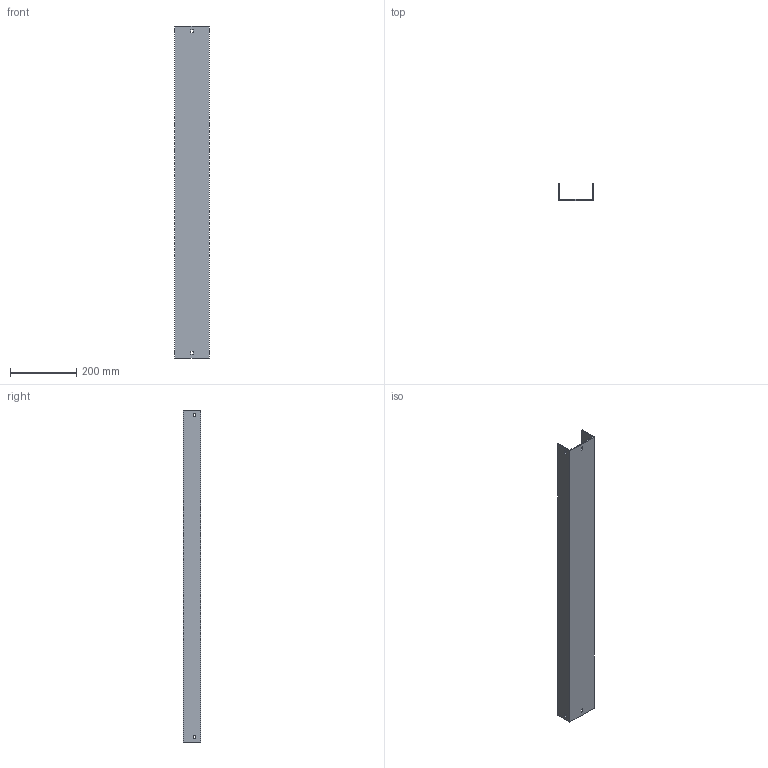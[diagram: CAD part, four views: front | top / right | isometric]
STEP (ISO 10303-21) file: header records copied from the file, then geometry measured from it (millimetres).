
FILE_DESCRIPTION (( 'STEP AP214' ), '1' );
FILE_NAME ('03F1B100.step', '2025-02-21T13:22:58', ( '' ), ( '' ), 'SwSTEP 2.0', 'SolidWorks 2023', '' );
FILE_SCHEMA (( 'AUTOMOTIVE_DESIGN' ));
Length unit declared in the file: millimetre
Products named in the file (1): 03F1B100
Bounding box: 104 x 52 x 1000 mm (x, y, z)
Volume: 702110.5 mm3; surface area: 410306 mm2
Topology: 1 solids, 1 shells, 34 faces, 96 edges, 64 vertices
Faces by surface type: plane 34
Entity records: 1127 total; most frequent: CARTESIAN_POINT 195, ORIENTED_EDGE 192, DIRECTION 166, VECTOR 96, EDGE_CURVE 96, LINE 96, VERTEX_POINT 64, EDGE_LOOP 46
